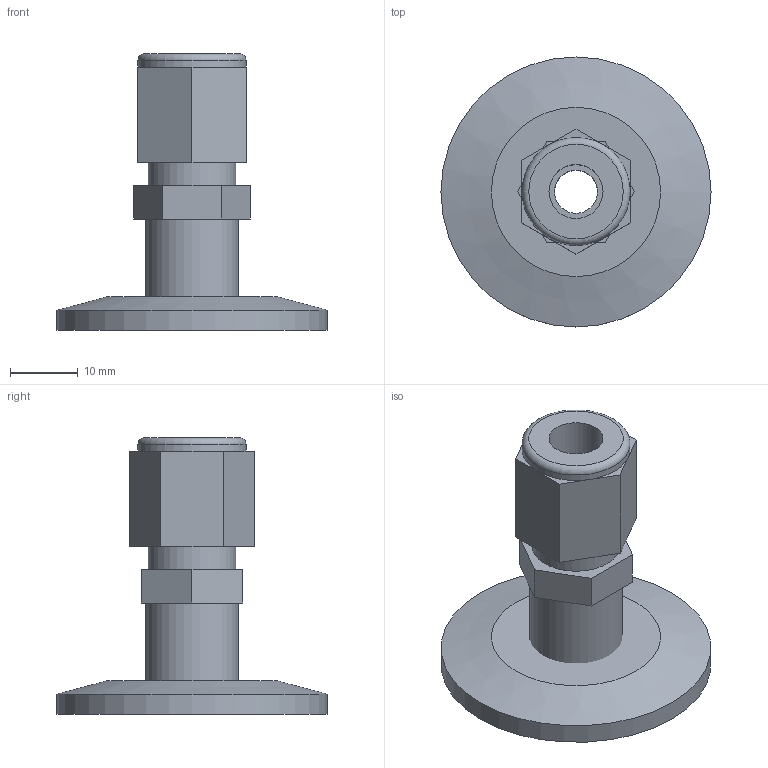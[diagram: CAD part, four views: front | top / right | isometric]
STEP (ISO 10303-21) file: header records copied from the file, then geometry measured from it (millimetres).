
FILE_DESCRIPTION( ( 'Unknown' ), '1' );
FILE_NAME( 'X:/Daten ( aktueller Bestand )/Projekte und Zeichnungen/Solid Edge/STP-Dateien/Adapter KF/1824-8-4.stp', 'Unknown', ( 'Unknown' ), ( 'Unknown' ), 'PSStep 14.0', 'Unknown', ' ' );
FILE_SCHEMA( ( 'AUTOMOTIVE_DESIGN { 1 0 10303 214 1 1 1 1 }' ) );
Length unit declared in the file: millimetre
Products named in the file (3): Assem1; 8x1-4; 1824- 1-2
Assembly tree (2 placements, depth 2):
  Assem1
    8x1-4
    1824- 1-2
Bounding box: 40 x 40 x 41 mm (x, y, z)
Volume: 9743.5 mm3; surface area: 6454.5 mm2
Topology: 2 solids, 2 shells, 39 faces, 78 edges, 49 vertices
Faces by surface type: plane 28, cylinder 9, torus 1, cone 1
Full cylindrical faces by diameter (mm): 6.4 x1, 8 x1, 12.8 x1, 13 x1, 13.7 x1, 16 x1, 19.7 x1, 26.2 x1, 40 x1
Entity records: 1324 total; most frequent: DIRECTION 176, CARTESIAN_POINT 158, ORIENTED_EDGE 134, AXIS2_PLACEMENT_3D 67, EDGE_CURVE 67, EDGE_LOOP 60, FACE_OUTER_BOUND 49, VERTEX_POINT 49
